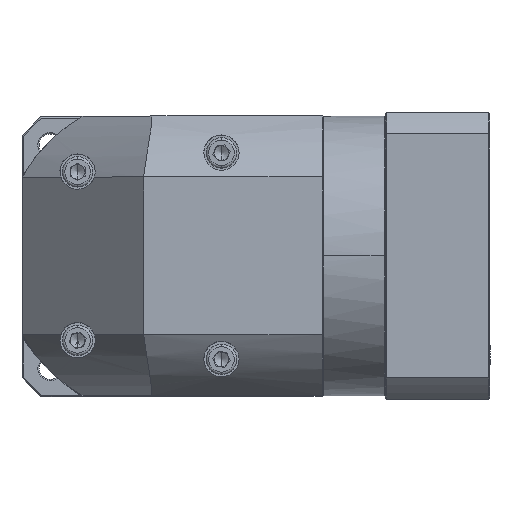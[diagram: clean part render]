
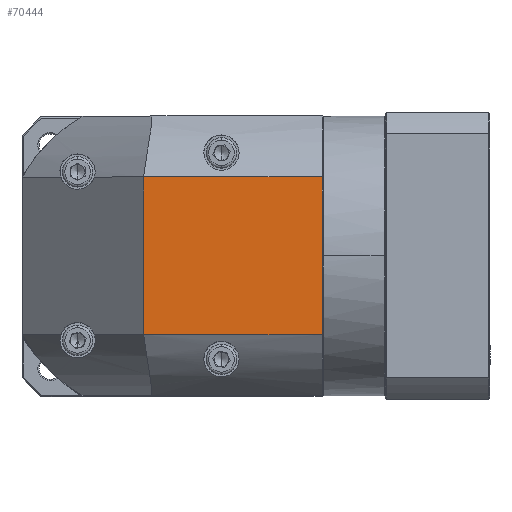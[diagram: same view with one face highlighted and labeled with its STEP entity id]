
A CAD part, top view. The second image highlights one B-rep face of the part: STEP entity #70444.
In plain terms, the highlighted planar face has unit normal (0, 0, 1).
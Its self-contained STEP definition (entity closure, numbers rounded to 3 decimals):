
#749 = LINE ( 'NONE', #53943, #42673 ) ;
#11314 = PLANE ( 'NONE',  #88237 ) ;
#18937 = CARTESIAN_POINT ( 'NONE',  ( 106.38, 30.453, 71.064 ) ) ;
#19538 = CARTESIAN_POINT ( 'NONE',  ( 106.38, 120.353, 71.064 ) ) ;
#24975 = VECTOR ( 'NONE', #41521, 1000. ) ;
#25333 = ORIENTED_EDGE ( 'NONE', *, *, #106096, .F. ) ;
#36583 = CARTESIAN_POINT ( 'NONE',  ( 32.98, 30.453, 71.064 ) ) ;
#41521 = DIRECTION ( 'NONE',  ( 0., -1., 0. ) ) ;
#42673 = VECTOR ( 'NONE', #106317, 1000. ) ;
#44514 = ORIENTED_EDGE ( 'NONE', *, *, #79306, .F. ) ;
#51160 = FACE_OUTER_BOUND ( 'NONE', #93068, .T. ) ;
#52863 = DIRECTION ( 'NONE',  ( 0., -1., 0. ) ) ;
#53943 = CARTESIAN_POINT ( 'NONE',  ( -17.02, 95.253, 71.064 ) ) ;
#54977 = LINE ( 'NONE', #56921, #109638 ) ;
#56921 = CARTESIAN_POINT ( 'NONE',  ( 32.98, 120.353, 71.064 ) ) ;
#57545 = CARTESIAN_POINT ( 'NONE',  ( 32.98, 95.253, 71.064 ) ) ;
#58185 = CARTESIAN_POINT ( 'NONE',  ( 106.38, 95.253, 71.064 ) ) ;
#62856 = VERTEX_POINT ( 'NONE', #18937 ) ;
#63303 = VERTEX_POINT ( 'NONE', #36583 ) ;
#70444 = ADVANCED_FACE ( 'NONE', ( #51160 ), #11314, .F. ) ;
#72896 = ORIENTED_EDGE ( 'NONE', *, *, #104156, .F. ) ;
#74992 = DIRECTION ( 'NONE',  ( 0., 0., -1. ) ) ;
#79306 = EDGE_CURVE ( 'NONE', #123987, #62856, #129883, .T. ) ;
#88237 = AXIS2_PLACEMENT_3D ( 'NONE', #116430, #74992, #52863 ) ;
#93068 = EDGE_LOOP ( 'NONE', ( #25333, #72896, #108532, #44514 ) ) ;
#98644 = DIRECTION ( 'NONE',  ( 0., 1., 0. ) ) ;
#104156 = EDGE_CURVE ( 'NONE', #63303, #108240, #54977, .T. ) ;
#106096 = EDGE_CURVE ( 'NONE', #108240, #123987, #749, .T. ) ;
#106317 = DIRECTION ( 'NONE',  ( 1., 0., 0. ) ) ;
#108240 = VERTEX_POINT ( 'NONE', #57545 ) ;
#108532 = ORIENTED_EDGE ( 'NONE', *, *, #113637, .F. ) ;
#109510 = VECTOR ( 'NONE', #113743, 1000. ) ;
#109638 = VECTOR ( 'NONE', #98644, 1000. ) ;
#113637 = EDGE_CURVE ( 'NONE', #62856, #63303, #129568, .T. ) ;
#113743 = DIRECTION ( 'NONE',  ( -1., 0., 0. ) ) ;
#116430 = CARTESIAN_POINT ( 'NONE',  ( 40.48, 62.853, 71.064 ) ) ;
#123987 = VERTEX_POINT ( 'NONE', #58185 ) ;
#129568 = LINE ( 'NONE', #135643, #109510 ) ;
#129883 = LINE ( 'NONE', #19538, #24975 ) ;
#135643 = CARTESIAN_POINT ( 'NONE',  ( -17.02, 30.453, 71.064 ) ) ;
